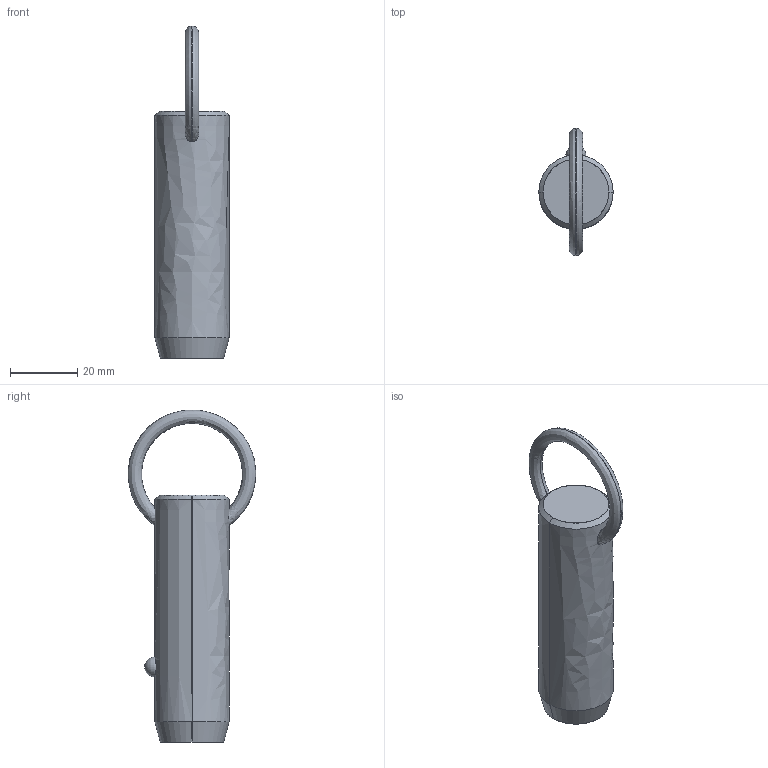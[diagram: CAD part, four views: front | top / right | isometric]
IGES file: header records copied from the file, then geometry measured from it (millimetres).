
Start section: SolidWorks IGES file using analytic representation for surfaces
Global section: file name: C:\Users\liam_\OneDrive\Documents\WORK\Work for WixRoyd\Job Files\J-00019 - Matt Davis CAD Checking\04. CAD Drawings\automotion20190605\P1250.2_v2\P1250.2_v2_20190729_IGES\P1250.087-140.igs; native system: SolidWorks 2017; preprocessor: SolidWorks 2017; author: liam_; date: 190730.000455; units: millimetre
Bounding box: 22.2 x 38.08 x 99.1 mm (x, y, z)
Surface area: 6783.8 mm2 (no closed solid volume)
Topology: 0 solids, 0 shells, 12 faces, 302 edges, 300 vertices
Faces by surface type: revolution 8, bspline 4
